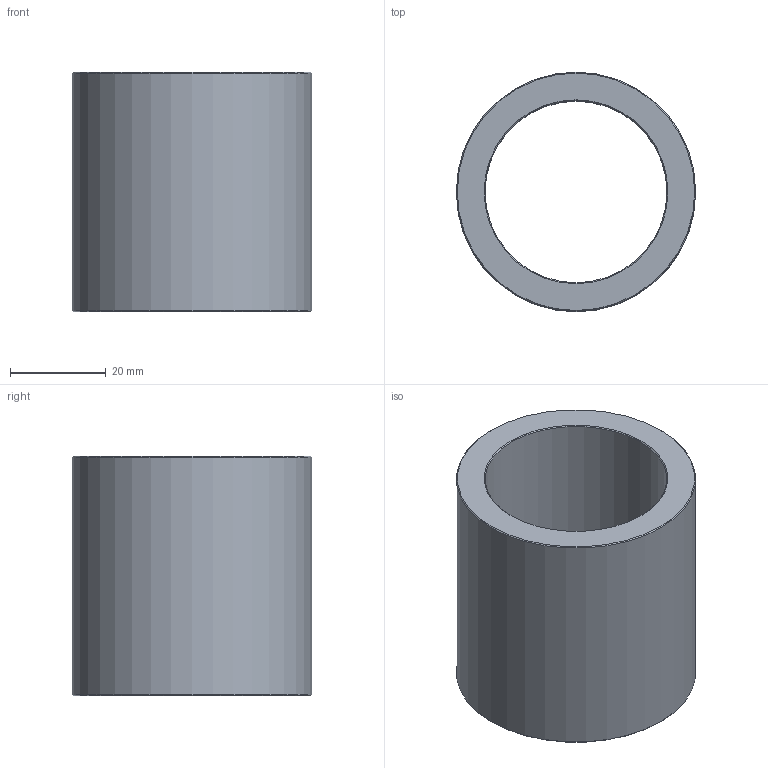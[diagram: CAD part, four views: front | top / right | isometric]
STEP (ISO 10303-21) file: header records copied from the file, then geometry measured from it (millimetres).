
FILE_DESCRIPTION(('STEP AP203'),'1');
FILE_NAME('C:/Users/Rodrigo/Desktop/GA6.038.050-1.step','2016-11-07T18:21:05',(' '),(' '),'Spatial InterOp 3D',' ',' ');
FILE_SCHEMA(('CONFIG_CONTROL_DESIGN'));
Length unit declared in the file: millimetre
Products named in the file (1): 1
Bounding box: 50 x 50 x 50 mm (x, y, z)
Volume: 41458 mm3; surface area: 15417 mm2
Topology: 1 solids, 1 shells, 8 faces, 14 edges, 8 vertices
Faces by surface type: cone 4, cylinder 2, plane 2
Full cylindrical faces by diameter (mm): 38 x1, 50 x1
Entity records: 212 total; most frequent: DIRECTION 34, CARTESIAN_POINT 25, AXIS2_PLACEMENT_3D 17, EDGE_LOOP 16, ORIENTED_EDGE 16, FACE_OUTER_BOUND 10, ADVANCED_FACE 8, EDGE_CURVE 8
